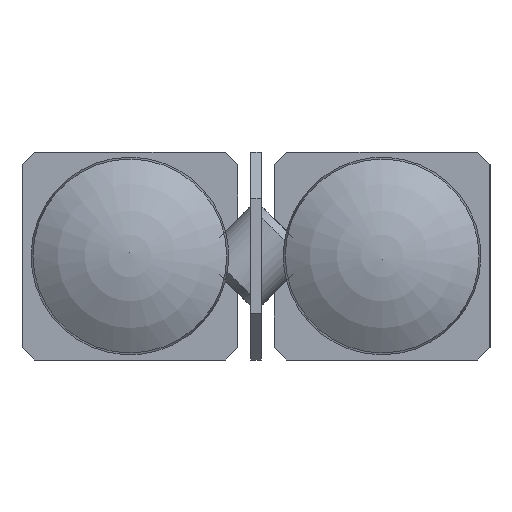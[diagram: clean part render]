
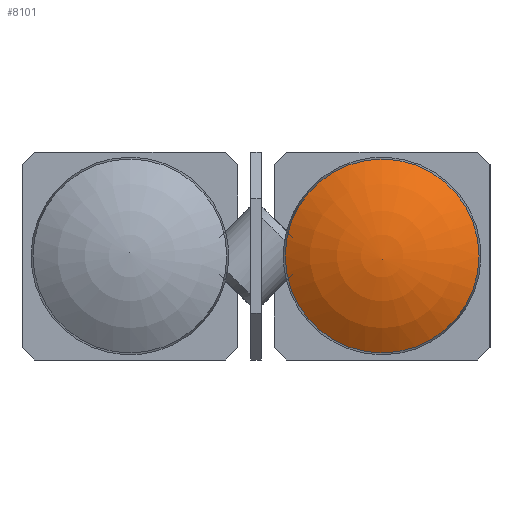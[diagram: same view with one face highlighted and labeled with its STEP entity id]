
A CAD part, left-side view. The second image highlights one B-rep face of the part: STEP entity #8101.
In plain terms, the highlighted toroidal (fillet/blend) face has major radius 0.059 mm and minor radius 6.5 mm.
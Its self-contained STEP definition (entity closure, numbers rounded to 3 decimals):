
#160=VERTEX_LOOP('',#3920);
#164=DEGENERATE_TOROIDAL_SURFACE('',#8675,0.059,6.5,
 .F.);
#394=CIRCLE('',#8674,3.728);
#767=ORIENTED_EDGE('',*,*,#2847,.F.);
#2847=EDGE_CURVE('',#3919,#3919,#394,.T.);
#3919=VERTEX_POINT('',#12063);
#3920=VERTEX_POINT('',#12065);
#6203=EDGE_LOOP('',(#767));
#7029=FACE_BOUND('',#160,.T.);
#7030=FACE_BOUND('',#6203,.T.);
#8101=ADVANCED_FACE('',(#7029,#7030),#164,.F.);
#8674=AXIS2_PLACEMENT_3D('',#12062,#9680,#9681);
#8675=AXIS2_PLACEMENT_3D('',#12064,#9682,#9683);
#9680=DIRECTION('',(1.,0.,0.));
#9681=DIRECTION('',(0.,0.,-1.));
#9682=DIRECTION('',(1.,0.,0.));
#9683=DIRECTION('',(0.,0.,-1.));
#12062=CARTESIAN_POINT('',(1.217,-4.85,0.));
#12063=CARTESIAN_POINT('',(1.217,-4.85,-3.728));
#12064=CARTESIAN_POINT('',(6.5,-4.85,0.));
#12065=CARTESIAN_POINT('',(0.,-4.85,0.));
